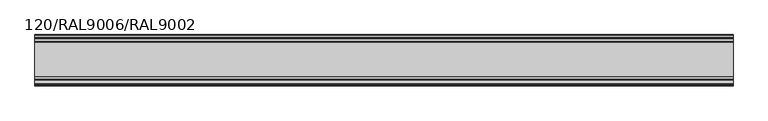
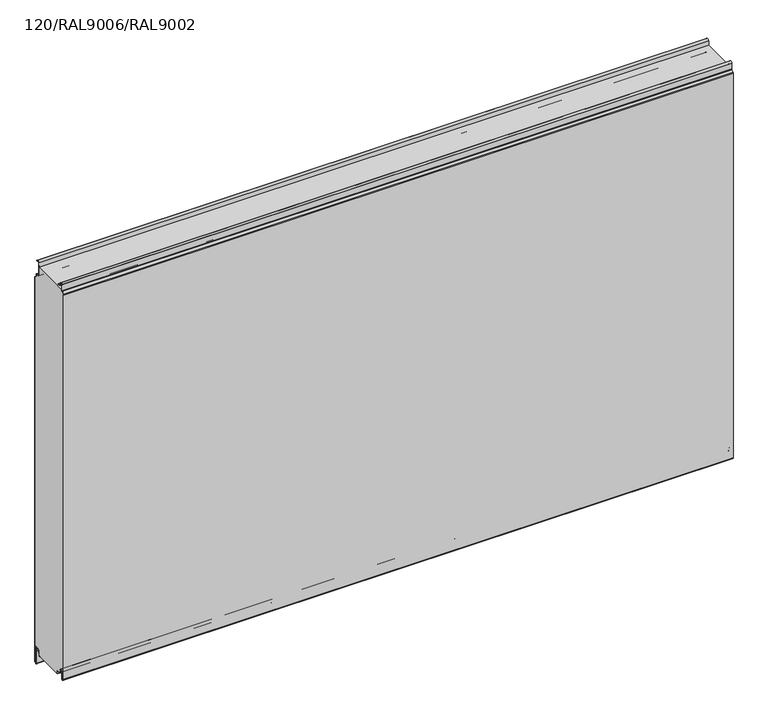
"""IFC4 building model written with IfcOpenShell, lengths in millimetres: plate geometry, TR_C_H_FHL_Panel : 120/RAL9006/RAL9002."""

from ifc_helpers import new_model, si_unit, point, frame, frame_2d, origin, place, context, project, spatial, polyline, circle_curve, trimmed, segment, composite_curve, outline, extrude, source, transform, mapped, element, save


def plate_120_ral9006_ral9002_0ac6ffa4(model_context):
    return source(origin(), model_context, "Body", "SweptSolid", [
        extrude(outline(composite_curve([segment(polyline([(-17.4455763, 1000.0), (-17.6, 998.2349288), (-17.6, 979.1)]), True, "CONTINUOUS"), segment(trimmed(circle_curve(frame_2d((-14.8, 979.1)), 2.8), [point((-17.6, 979.1))], [point((-14.8, 976.3))], True, "CARTESIAN"), True, "CONTINUOUS"), segment(polyline([(-14.8, 976.3), (-8.9, 976.3)]), True, "CONTINUOUS"), segment(trimmed(circle_curve(frame_2d((-8.9, 974.4)), 1.9), [point((-8.9, 976.3))], [point((-7.0, 974.4))], False, "CARTESIAN"), True, "CONTINUOUS"), segment(polyline([(-7.0, 974.4), (-7.0, 971.5838835)]), True, "CONTINUOUS"), segment(trimmed(circle_curve(frame_2d((-4.2, 971.5838835)), 2.8), [point((-7.0, 971.5838835))], [point((-6.179899, 969.6039845))], True, "CARTESIAN"), True, "CONTINUOUS"), segment(polyline([(-6.179899, 969.6039845), (-1.3564971, 964.7805826)]), True, "CONTINUOUS"), segment(trimmed(circle_curve(frame_2d((-2.7, 963.4370797)), 1.9), [point((-1.3564971, 964.7805826))], [point((-0.8, 963.4370797))], False, "CARTESIAN"), True, "CONTINUOUS"), segment(polyline([(-0.8, 963.4370797), (-0.8, 15.9993484), (-12.3520294, 15.9993484)]), True, "CONTINUOUS"), segment(trimmed(circle_curve(frame_2d((-12.3520294, 11.0993484)), 4.9), [point((-12.3520294, 15.9993484))], [point((-17.2333835, 11.5264116))], True, "CARTESIAN"), True, "CONTINUOUS"), segment(polyline([(-17.2333835, 11.5264116), (-18.0972969, 1.6518352)]), True, "CONTINUOUS"), segment(trimmed(circle_curve(frame_2d((-19.7908279, 1.8)), 1.7), [point((-18.0972969, 1.6518352))], [point((-19.7908279, 0.1))], False, "CARTESIAN"), True, "CONTINUOUS"), segment(polyline([(-19.7908279, 0.1), (-20.8, 0.0), (-94.86, 0.0), (-94.86, 7.9), (-102.3925589, 7.9)]), True, "CONTINUOUS"), segment(trimmed(circle_curve(frame_2d((-102.3925589, 10.85)), 2.95), [point((-102.3925589, 7.9))], [point((-105.2977418, 10.3377379))], False, "CARTESIAN"), True, "CONTINUOUS"), segment(polyline([(-105.2977418, 10.3377379), (-106.364567, 16.3880048)]), True, "CONTINUOUS"), segment(trimmed(circle_curve(frame_2d((-110.55, 15.65)), 4.25), [point((-106.364567, 16.3880048))], [point((-110.55, 19.9))], True, "CARTESIAN"), True, "CONTINUOUS"), segment(polyline([(-110.55, 19.9), (-119.2, 19.9), (-119.2, 989.8218254)]), True, "CONTINUOUS"), segment(trimmed(circle_curve(frame_2d((-117.0, 989.8218254)), 2.2), [point((-119.2, 989.8218254))], [point((-118.5556349, 991.3774603))], False, "CARTESIAN"), True, "CONTINUOUS"), segment(polyline([(-118.5556349, 991.3774603), (-114.1665476, 995.7665476)]), True, "CONTINUOUS"), segment(trimmed(circle_curve(frame_2d((-116.5, 998.1)), 3.3), [point((-114.1665476, 995.7665476))], [point((-113.2, 998.1))], True, "CARTESIAN"), True, "CONTINUOUS"), segment(polyline([(-113.2, 998.1), (-113.2, 1000.0), (-17.4455763, 1000.0)]), True, "CONTINUOUS")], self_intersect=False)), frame((-815.4, 0.0, 0.0), z_axis=(1.0, 0.0, 0.0), x_axis=(0.0, 1.0, 0.0)), (0.0, 0.0, 1.0), 1630.8),
        extrude(outline(composite_curve([segment(polyline([(-0.8, -25.1006169), (-0.8, 963.4370797)]), True, "CONTINUOUS"), segment(trimmed(circle_curve(frame_2d((-2.7, 963.4370797)), 1.9), [point((-0.8, 963.4370797))], [point((-1.3564971, 964.7805826))], True, "CARTESIAN"), True, "CONTINUOUS"), segment(polyline([(-1.3564971, 964.7805826), (-6.179899, 969.6039845)]), True, "CONTINUOUS"), segment(trimmed(circle_curve(frame_2d((-4.2, 971.5838835)), 2.8), [point((-6.179899, 969.6039845))], [point((-7.0, 971.5838835))], False, "CARTESIAN"), True, "CONTINUOUS"), segment(polyline([(-7.0, 971.5838835), (-7.0, 974.4)]), True, "CONTINUOUS"), segment(trimmed(circle_curve(frame_2d((-8.9, 974.4)), 1.9), [point((-7.0, 974.4))], [point((-8.9, 976.3))], True, "CARTESIAN"), True, "CONTINUOUS"), segment(polyline([(-8.9, 976.3), (-14.8, 976.3)]), True, "CONTINUOUS"), segment(trimmed(circle_curve(frame_2d((-14.8, 979.1)), 2.8), [point((-14.8, 976.3))], [point((-17.6, 979.1))], False, "CARTESIAN"), True, "CONTINUOUS"), segment(polyline([(-17.6, 979.1), (-17.6, 998.2349288), (-16.5051936, 1010.748623)]), True, "CONTINUOUS"), segment(trimmed(circle_curve(frame_2d((-12.5204148, 1010.4)), 4.0), [point((-16.5051936, 1010.748623))], [point((-8.7383405, 1011.7022726))], False, "CARTESIAN"), True, "CONTINUOUS"), segment(polyline([(-8.7383405, 1011.7022726), (-8.4287263, 1010.8030877), (-9.1851412, 1010.5426332), (-9.4947554, 1011.4418181)]), True, "CONTINUOUS"), segment(trimmed(circle_curve(frame_2d((-12.5204148, 1010.4)), 3.2), [point((-9.4947554, 1011.4418181))], [point((-15.7082379, 1010.6788984))], True, "CARTESIAN"), True, "CONTINUOUS"), segment(polyline([(-15.7082379, 1010.6788984), (-16.8, 998.2), (-16.8, 979.1)]), True, "CONTINUOUS"), segment(trimmed(circle_curve(frame_2d((-14.8, 979.1)), 2.0), [point((-16.8, 979.1))], [point((-14.8, 977.1))], True, "CARTESIAN"), True, "CONTINUOUS"), segment(polyline([(-14.8, 977.1), (-8.9, 977.1)]), True, "CONTINUOUS"), segment(trimmed(circle_curve(frame_2d((-8.9, 974.4)), 2.7), [point((-8.9, 977.1))], [point((-6.2, 974.4))], False, "CARTESIAN"), True, "CONTINUOUS"), segment(polyline([(-6.2, 974.4), (-6.2, 971.5838835)]), True, "CONTINUOUS"), segment(trimmed(circle_curve(frame_2d((-4.2, 971.5838835)), 2.0), [point((-6.2, 971.5838835))], [point((-5.6142136, 970.1696699))], True, "CARTESIAN"), True, "CONTINUOUS"), segment(polyline([(-5.6142136, 970.1696699), (-0.7908117, 965.346268)]), True, "CONTINUOUS"), segment(trimmed(circle_curve(frame_2d((-2.7, 963.4370797)), 2.7), [point((-0.7908117, 965.346268))], [point((0.0, 963.4370797))], False, "CARTESIAN"), True, "CONTINUOUS"), segment(polyline([(0.0, 963.4370797), (0.0, -25.1006169)]), True, "CONTINUOUS"), segment(trimmed(circle_curve(frame_2d((-2.7, -25.1006169)), 2.7), [point((0.0, -25.1006169))], [point((-0.8586044, -27.0752719))], False, "CARTESIAN"), True, "CONTINUOUS"), segment(polyline([(-0.8586044, -27.0752719), (-2.8042031, -28.889572)]), True, "CONTINUOUS"), segment(trimmed(circle_curve(frame_2d((-4.1, -27.5)), 1.9), [point((-2.8042031, -28.889572))], [point((-6.0, -27.5))], False, "CARTESIAN"), True, "CONTINUOUS"), segment(polyline([(-6.0, -27.5), (-6.0, 4.8267282)]), True, "CONTINUOUS"), segment(trimmed(circle_curve(frame_2d((-8.5, 4.8267282)), 2.5), [point((-6.0, 4.8267282))], [point((-6.1362036, 5.6406486))], True, "CARTESIAN"), True, "CONTINUOUS"), segment(polyline([(-6.1362036, 5.6406486), (-8.4754033, 12.4341779)]), True, "CONTINUOUS"), segment(trimmed(circle_curve(frame_2d((-12.3520294, 11.0993484)), 4.1), [point((-8.4754033, 12.4341779))], [point((-16.4364277, 11.456687))], True, "CARTESIAN"), True, "CONTINUOUS"), segment(polyline([(-16.4364277, 11.456687), (-17.3003412, 1.5821106)]), True, "CONTINUOUS"), segment(trimmed(circle_curve(frame_2d((-19.7908279, 1.8)), 2.5), [point((-17.3003412, 1.5821106))], [point((-19.7908279, -0.7))], False, "CARTESIAN"), True, "CONTINUOUS"), segment(polyline([(-19.7908279, -0.7), (-20.8, -0.7), (-20.8, 0.1), (-19.7908279, 0.1)]), True, "CONTINUOUS"), segment(trimmed(circle_curve(frame_2d((-19.7908279, 1.8)), 1.7), [point((-19.7908279, 0.1))], [point((-18.0972969, 1.6518352))], True, "CARTESIAN"), True, "CONTINUOUS"), segment(polyline([(-18.0972969, 1.6518352), (-17.2333835, 11.5264116)]), True, "CONTINUOUS"), segment(trimmed(circle_curve(frame_2d((-12.3520294, 11.0993484)), 4.9), [point((-17.2333835, 11.5264116))], [point((-7.7189884, 12.6946324))], False, "CARTESIAN"), True, "CONTINUOUS"), segment(polyline([(-7.7189884, 12.6946324), (-5.3797887, 5.9011031)]), True, "CONTINUOUS"), segment(trimmed(circle_curve(frame_2d((-8.5, 4.8267282)), 3.3), [point((-5.3797887, 5.9011031))], [point((-5.2, 4.8267282))], False, "CARTESIAN"), True, "CONTINUOUS"), segment(polyline([(-5.2, 4.8267282), (-5.2, -27.5)]), True, "CONTINUOUS"), segment(trimmed(circle_curve(frame_2d((-4.1, -27.5)), 1.1), [point((-5.2, -27.5))], [point((-3.3498018, -28.3044891))], True, "CARTESIAN"), True, "CONTINUOUS"), segment(polyline([(-3.3498018, -28.3044891), (-1.4042031, -26.4901889)]), True, "CONTINUOUS"), segment(trimmed(circle_curve(frame_2d((-2.7, -25.1006169)), 1.9), [point((-1.4042031, -26.4901889))], [point((-0.8, -25.1006169))], True, "CARTESIAN"), True, "CONTINUOUS")], self_intersect=False)), frame((-815.4, 0.0, 0.0), z_axis=(1.0, 0.0, 0.0), x_axis=(0.0, 1.0, 0.0)), (0.0, 0.0, 1.0), 1630.8),
        extrude(outline(composite_curve([segment(polyline([(-99.0, 7.1), (-102.3925589, 7.1)]), True, "CONTINUOUS"), segment(trimmed(circle_curve(frame_2d((-102.3925589, 10.85)), 3.75), [point((-102.3925589, 7.1))], [point((-106.085588, 10.1988193))], False, "CARTESIAN"), True, "CONTINUOUS"), segment(polyline([(-106.085588, 10.1988193), (-107.1524133, 16.2490862)]), True, "CONTINUOUS"), segment(trimmed(circle_curve(frame_2d((-110.55, 15.65)), 3.45), [point((-107.1524133, 16.2490862))], [point((-114.0, 15.65))], True, "CARTESIAN"), True, "CONTINUOUS"), segment(polyline([(-114.0, 15.65), (-114.0, -1.95)]), True, "CONTINUOUS"), segment(trimmed(circle_curve(frame_2d((-115.95, -1.95)), 1.95), [point((-114.0, -1.95))], [point((-117.3288582, -3.3288582))], False, "CARTESIAN"), True, "CONTINUOUS"), segment(polyline([(-117.3288582, -3.3288582), (-119.1945436, -1.4631728)]), True, "CONTINUOUS"), segment(trimmed(circle_curve(frame_2d((-117.25, 0.4813708)), 2.75), [point((-119.1945436, -1.4631728))], [point((-120.0, 0.4813708))], False, "CARTESIAN"), True, "CONTINUOUS"), segment(polyline([(-120.0, 0.4813708), (-120.0, 989.8218254)]), True, "CONTINUOUS"), segment(trimmed(circle_curve(frame_2d((-117.0, 989.8218254)), 3.0), [point((-120.0, 989.8218254))], [point((-119.1213203, 991.9431458))], False, "CARTESIAN"), True, "CONTINUOUS"), segment(polyline([(-119.1213203, 991.9431458), (-114.732233, 996.332233)]), True, "CONTINUOUS"), segment(trimmed(circle_curve(frame_2d((-116.5, 998.1)), 2.5), [point((-114.732233, 996.332233))], [point((-114.0, 998.1))], True, "CARTESIAN"), True, "CONTINUOUS"), segment(polyline([(-114.0, 998.1), (-114.0, 1012.85)]), True, "CONTINUOUS"), segment(trimmed(circle_curve(frame_2d((-110.75, 1012.85)), 3.25), [point((-114.0, 1012.85))], [point((-107.5493748, 1013.4143566))], False, "CARTESIAN"), True, "CONTINUOUS"), segment(polyline([(-107.5493748, 1013.4143566), (-106.8060618, 1009.1988193)]), True, "CONTINUOUS"), segment(trimmed(circle_curve(frame_2d((-103.1130328, 1009.85)), 3.75), [point((-106.8060618, 1009.1988193))], [point((-103.1130328, 1006.1))], True, "CARTESIAN"), True, "CONTINUOUS"), segment(polyline([(-103.1130328, 1006.1), (-99.0, 1006.1), (-99.0, 1005.3), (-103.1130328, 1005.3)]), True, "CONTINUOUS"), segment(trimmed(circle_curve(frame_2d((-103.1130328, 1009.85)), 4.55), [point((-103.1130328, 1005.3))], [point((-107.5939081, 1009.0599008))], False, "CARTESIAN"), True, "CONTINUOUS"), segment(polyline([(-107.5939081, 1009.0599008), (-108.337221, 1013.275438)]), True, "CONTINUOUS"), segment(trimmed(circle_curve(frame_2d((-110.75, 1012.85)), 2.45), [point((-108.337221, 1013.275438))], [point((-113.2, 1012.85))], True, "CARTESIAN"), True, "CONTINUOUS"), segment(polyline([(-113.2, 1012.85), (-113.2, 998.1)]), True, "CONTINUOUS"), segment(trimmed(circle_curve(frame_2d((-116.5, 998.1)), 3.3), [point((-113.2, 998.1))], [point((-114.1665476, 995.7665476))], False, "CARTESIAN"), True, "CONTINUOUS"), segment(polyline([(-114.1665476, 995.7665476), (-118.5556349, 991.3774603)]), True, "CONTINUOUS"), segment(trimmed(circle_curve(frame_2d((-117.0, 989.8218254)), 2.2), [point((-118.5556349, 991.3774603))], [point((-119.2, 989.8218254))], True, "CARTESIAN"), True, "CONTINUOUS"), segment(polyline([(-119.2, 989.8218254), (-119.2, 0.4813708)]), True, "CONTINUOUS"), segment(trimmed(circle_curve(frame_2d((-117.25, 0.4813708)), 1.95), [point((-119.2, 0.4813708))], [point((-118.6288582, -0.8974874))], True, "CARTESIAN"), True, "CONTINUOUS"), segment(polyline([(-118.6288582, -0.8974874), (-116.7631728, -2.7631728)]), True, "CONTINUOUS"), segment(trimmed(circle_curve(frame_2d((-115.95, -1.95)), 1.15), [point((-116.7631728, -2.7631728))], [point((-114.8, -1.95))], True, "CARTESIAN"), True, "CONTINUOUS"), segment(polyline([(-114.8, -1.95), (-114.8, 15.65)]), True, "CONTINUOUS"), segment(trimmed(circle_curve(frame_2d((-110.55, 15.65)), 4.25), [point((-114.8, 15.65))], [point((-106.364567, 16.3880048))], False, "CARTESIAN"), True, "CONTINUOUS"), segment(polyline([(-106.364567, 16.3880048), (-105.2977418, 10.3377379)]), True, "CONTINUOUS"), segment(trimmed(circle_curve(frame_2d((-102.3925589, 10.85)), 2.95), [point((-105.2977418, 10.3377379))], [point((-102.3925589, 7.9))], True, "CARTESIAN"), True, "CONTINUOUS"), segment(polyline([(-102.3925589, 7.9), (-99.0, 7.9), (-99.0, 7.1)]), True, "CONTINUOUS")], self_intersect=False)), frame((-815.4, 0.0, 0.0), z_axis=(1.0, 0.0, 0.0), x_axis=(0.0, 1.0, 0.0)), (0.0, 0.0, 1.0), 1630.8),
    ])


if __name__ == "__main__":
    model = new_model("IFC4")
    model_context = context("Model", 3, world=origin())
    ifc_project = project(units=[si_unit("LENGTHUNIT", "METRE", prefix="MILLI")], contexts=[model_context])
    site = spatial("IfcSite", under=ifc_project)
    building = spatial("IfcBuilding", under=site)
    placement = place(None, origin())
    plate_120_ral9006_ral9002_shape = plate_120_ral9006_ral9002_0ac6ffa4(model_context)
    element("IfcPlate", 1, ObjectType="TR_C_H_FHL_Panel : 120/RAL9006/RAL9002", at=placement, inside=building, context=model_context, shape_type="MappedRepresentation", body=[
        mapped(plate_120_ral9006_ral9002_shape, transform((0.0, 0.0, 0.0), x_axis=(1.0, 0.0, 0.0), y_axis=(0.0, 1.0, 0.0), z_axis=(0.0, 0.0, 1.0))),
    ])
    save(model, "model.ifc")
